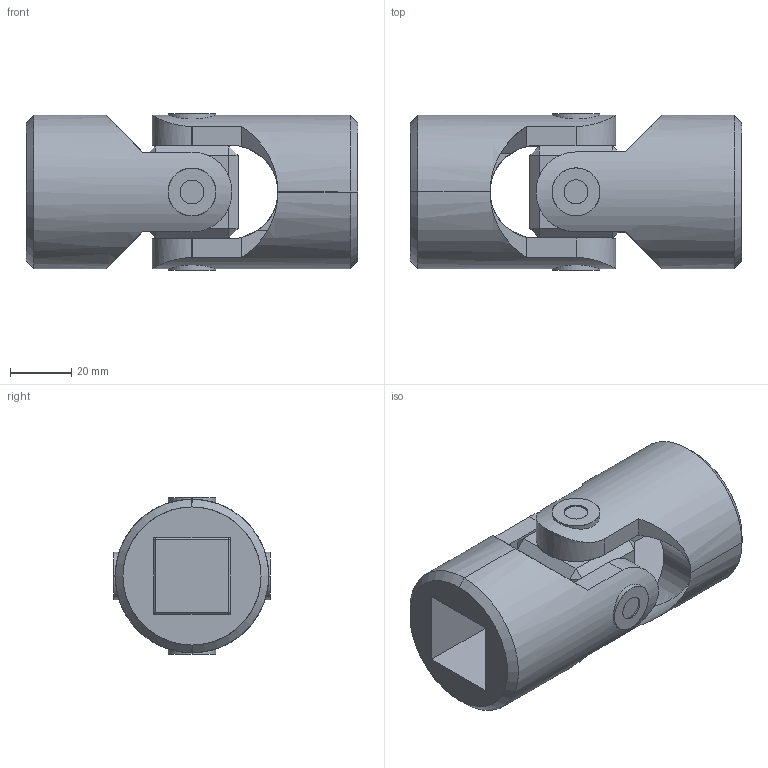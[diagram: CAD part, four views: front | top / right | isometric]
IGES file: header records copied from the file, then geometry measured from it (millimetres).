
Start section: SolidWorks IGES file using analytic representation for surfaces
Global section: file name: C:\Users\IanO\Desktop\R3690_v2\R3690_v2_20231020_IGES\R3690.025-SB.igs; native system: SolidWorks 2019; preprocessor: SolidWorks 2019; author: IanO; date: 231020.153040; units: millimetre
Bounding box: 108 x 51 x 51 mm (x, y, z)
Surface area: 40904.2 mm2 (no closed solid volume)
Topology: 0 solids, 0 shells, 108 faces, 2160 edges, 2160 vertices
Faces by surface type: bspline 64, revolution 44
